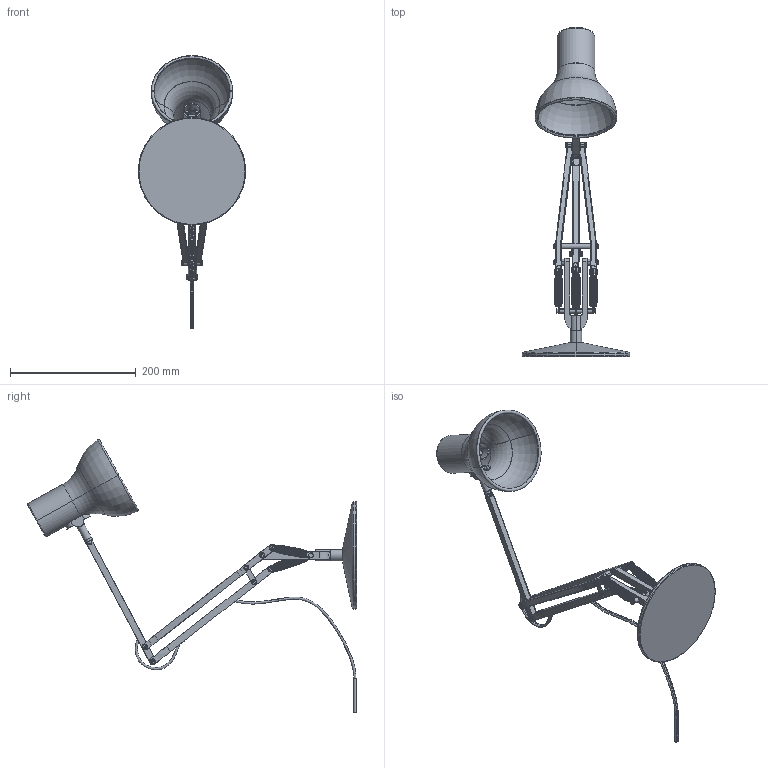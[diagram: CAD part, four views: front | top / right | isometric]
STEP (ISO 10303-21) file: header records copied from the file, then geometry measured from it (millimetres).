
FILE_DESCRIPTION (( 'STEP AP214' ), '1' );
FILE_NAME ('Type_75_Mini_Desk_Lamp_STEP_01.STEP', '2016-12-07T13:50:58', ( '' ), ( '' ), 'SwSTEP 2.0', 'SolidWorks 2015', '' );
FILE_SCHEMA (( 'AUTOMOTIVE_DESIGN' ));
Length unit declared in the file: millimetre
Products named in the file (1): Type_75_Mini_Desk_Lamp_STEP_01
Bounding box: 170.6 x 522.6 x 433.28 mm (x, y, z)
Volume: 430164.6 mm3; surface area: 272750.4 mm2
Topology: 1 solids, 13 shells, 1248 faces, 3373 edges, 2197 vertices
Faces by surface type: plane 534, cylinder 487, bspline 138, torus 77, sphere 7, cone 5
Entity records: 113191 total; most frequent: CARTESIAN_POINT 68706, ORIENTED_EDGE 6746, DIRECTION 5994, EDGE_CURVE 3373, AXIS2_PLACEMENT_3D 2235, VERTEX_POINT 2197, LINE 1524, VECTOR 1524
